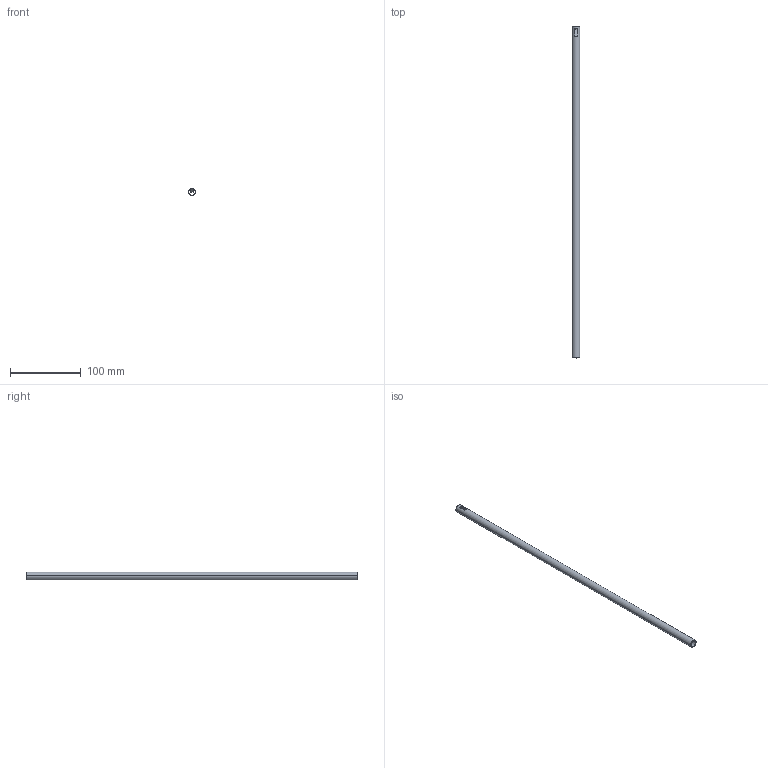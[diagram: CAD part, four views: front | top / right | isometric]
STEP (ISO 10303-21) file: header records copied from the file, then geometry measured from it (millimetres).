
FILE_DESCRIPTION (( 'STEP AP214' ), '1' );
FILE_NAME ('Relingsrohr_2S-Rundrel_Interwood_P760604300_500.step', '2010-09-07T12:59:34', ( 'grass' ), ( '' ), 'SwSTEP 2.0', 'SolidWorks 2010', '' );
FILE_SCHEMA (( 'AUTOMOTIVE_DESIGN' ));
Length unit declared in the file: millimetre
Products named in the file (1): Relingsrohr_2S-Rundrel_Interwood_P760604300_500
Bounding box: 11 x 469 x 11 mm (x, y, z)
Volume: 14731.8 mm3; surface area: 29571.4 mm2
Topology: 1 solids, 1 shells, 14 faces, 34 edges, 22 vertices
Faces by surface type: plane 10, cylinder 4
Entity records: 476 total; most frequent: CARTESIAN_POINT 77, DIRECTION 72, ORIENTED_EDGE 68, EDGE_CURVE 34, AXIS2_PLACEMENT_3D 25, LINE 22, VECTOR 22, VERTEX_POINT 22
